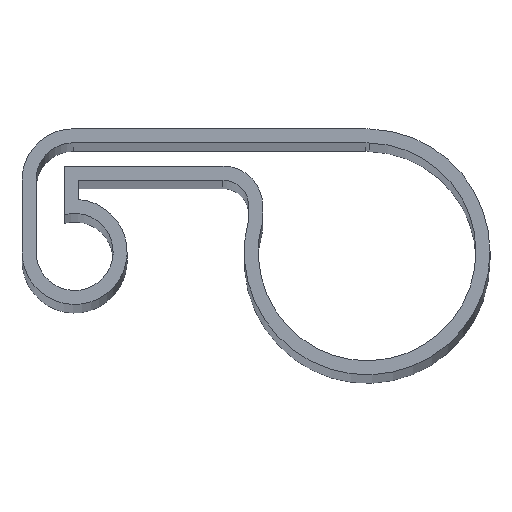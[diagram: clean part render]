
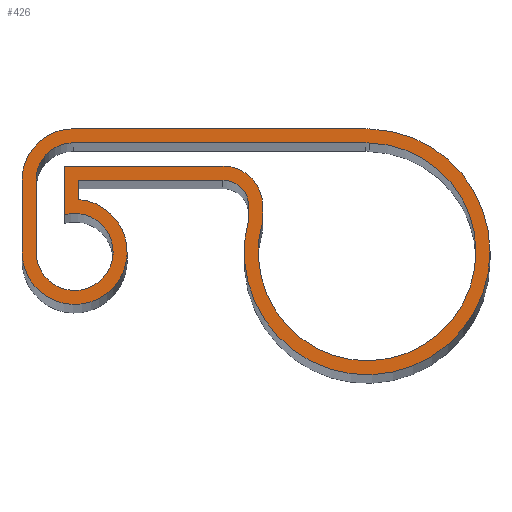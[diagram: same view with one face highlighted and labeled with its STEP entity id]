
A CAD part, top view. The second image highlights one B-rep face of the part: STEP entity #426.
In plain terms, the highlighted planar face has unit normal (0, 0, 1).
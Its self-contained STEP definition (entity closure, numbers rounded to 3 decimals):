
#16=FACE_BOUND('',#92,.T.);
#17=CIRCLE('',#432,2.2);
#19=CIRCLE('',#436,2.128);
#21=CIRCLE('',#440,1.2);
#23=CIRCLE('',#443,6.211);
#25=CIRCLE('',#447,2.264);
#28=CIRCLE('',#451,1.464);
#30=CIRCLE('',#456,3.);
#32=CIRCLE('',#460,2.928);
#34=CIRCLE('',#464,2.);
#36=CIRCLE('',#467,7.011);
#68=FACE_OUTER_BOUND('',#91,.T.);
#91=EDGE_LOOP('',(#373,#374,#375,#376,#377,#378,#379,#380,#381,#382));
#92=EDGE_LOOP('',(#383,#384,#385,#386,#387,#388,#389,#390,#391,#392));
#93=LINE('',#601,#133);
#97=LINE('',#609,#137);
#101=LINE('',#621,#141);
#105=LINE('',#633,#145);
#110=LINE('',#651,#150);
#116=LINE('',#671,#156);
#119=LINE('',#677,#159);
#123=LINE('',#689,#163);
#127=LINE('',#701,#167);
#132=LINE('',#717,#172);
#133=VECTOR('',#475,9.031);
#137=VECTOR('',#481,2.773);
#141=VECTOR('',#493,4.099);
#145=VECTOR('',#505,16.698);
#150=VECTOR('',#524,0.895);
#156=VECTOR('',#544,8.231);
#159=VECTOR('',#549,1.108);
#163=VECTOR('',#561,4.099);
#167=VECTOR('',#573,16.698);
#172=VECTOR('',#592,0.784);
#173=VERTEX_POINT('',#599);
#174=VERTEX_POINT('',#600);
#177=VERTEX_POINT('',#608);
#179=VERTEX_POINT('',#614);
#181=VERTEX_POINT('',#620);
#183=VERTEX_POINT('',#626);
#185=VERTEX_POINT('',#632);
#187=VERTEX_POINT('',#638);
#189=VERTEX_POINT('',#644);
#191=VERTEX_POINT('',#650);
#195=VERTEX_POINT('',#662);
#196=VERTEX_POINT('',#664);
#198=VERTEX_POINT('',#670);
#200=VERTEX_POINT('',#676);
#202=VERTEX_POINT('',#682);
#204=VERTEX_POINT('',#688);
#206=VERTEX_POINT('',#694);
#208=VERTEX_POINT('',#700);
#210=VERTEX_POINT('',#706);
#212=VERTEX_POINT('',#712);
#213=EDGE_CURVE('',#173,#174,#93,.T.);
#217=EDGE_CURVE('',#174,#177,#97,.T.);
#220=EDGE_CURVE('',#177,#179,#17,.T.);
#223=EDGE_CURVE('',#179,#181,#101,.T.);
#226=EDGE_CURVE('',#181,#183,#19,.T.);
#229=EDGE_CURVE('',#183,#185,#105,.T.);
#232=EDGE_CURVE('',#185,#187,#21,.T.);
#235=EDGE_CURVE('',#187,#189,#23,.T.);
#238=EDGE_CURVE('',#189,#191,#110,.T.);
#241=EDGE_CURVE('',#191,#173,#25,.T.);
#245=EDGE_CURVE('',#196,#195,#28,.T.);
#248=EDGE_CURVE('',#198,#196,#116,.T.);
#251=EDGE_CURVE('',#200,#198,#119,.T.);
#254=EDGE_CURVE('',#202,#200,#30,.T.);
#257=EDGE_CURVE('',#204,#202,#123,.T.);
#260=EDGE_CURVE('',#206,#204,#32,.T.);
#263=EDGE_CURVE('',#208,#206,#127,.T.);
#266=EDGE_CURVE('',#210,#208,#34,.T.);
#269=EDGE_CURVE('',#212,#210,#36,.T.);
#272=EDGE_CURVE('',#195,#212,#132,.T.);
#373=ORIENTED_EDGE('',*,*,#272,.T.);
#374=ORIENTED_EDGE('',*,*,#269,.T.);
#375=ORIENTED_EDGE('',*,*,#266,.T.);
#376=ORIENTED_EDGE('',*,*,#263,.T.);
#377=ORIENTED_EDGE('',*,*,#260,.T.);
#378=ORIENTED_EDGE('',*,*,#257,.T.);
#379=ORIENTED_EDGE('',*,*,#254,.T.);
#380=ORIENTED_EDGE('',*,*,#251,.T.);
#381=ORIENTED_EDGE('',*,*,#248,.T.);
#382=ORIENTED_EDGE('',*,*,#245,.T.);
#383=ORIENTED_EDGE('',*,*,#213,.T.);
#384=ORIENTED_EDGE('',*,*,#217,.T.);
#385=ORIENTED_EDGE('',*,*,#220,.T.);
#386=ORIENTED_EDGE('',*,*,#223,.T.);
#387=ORIENTED_EDGE('',*,*,#226,.T.);
#388=ORIENTED_EDGE('',*,*,#229,.T.);
#389=ORIENTED_EDGE('',*,*,#232,.T.);
#390=ORIENTED_EDGE('',*,*,#235,.T.);
#391=ORIENTED_EDGE('',*,*,#238,.T.);
#392=ORIENTED_EDGE('',*,*,#241,.T.);
#404=PLANE('',#470);
#426=ADVANCED_FACE('',(#68,#16),#404,.T.);
#432=AXIS2_PLACEMENT_3D('',#615,#486,#487);
#436=AXIS2_PLACEMENT_3D('',#627,#498,#499);
#440=AXIS2_PLACEMENT_3D('',#639,#510,#511);
#443=AXIS2_PLACEMENT_3D('',#645,#517,#518);
#447=AXIS2_PLACEMENT_3D('',#656,#529,#530);
#451=AXIS2_PLACEMENT_3D('',#665,#538,#539);
#456=AXIS2_PLACEMENT_3D('',#683,#555,#556);
#460=AXIS2_PLACEMENT_3D('',#695,#567,#568);
#464=AXIS2_PLACEMENT_3D('',#707,#579,#580);
#467=AXIS2_PLACEMENT_3D('',#713,#586,#587);
#470=AXIS2_PLACEMENT_3D('',#719,#595,#596);
#475=DIRECTION('',(-1.,0.,0.));
#481=DIRECTION('',(0.,-1.,0.));
#486=DIRECTION('center_axis',(0.,0.,-1.));
#487=DIRECTION('ref_axis',(-1.,0.,0.));
#493=DIRECTION('',(0.,1.,0.));
#498=DIRECTION('center_axis',(0.,0.,-1.));
#499=DIRECTION('ref_axis',(0.,1.,0.));
#505=DIRECTION('',(1.,0.,0.));
#510=DIRECTION('center_axis',(0.,0.,-1.));
#511=DIRECTION('ref_axis',(0.17,0.985,0.));
#517=DIRECTION('center_axis',(0.,0.,-1.));
#518=DIRECTION('ref_axis',(-0.96,0.28,0.));
#524=DIRECTION('',(0.,1.,0.));
#529=DIRECTION('center_axis',(0.,0.,1.));
#530=DIRECTION('ref_axis',(-1.,0.,0.));
#538=DIRECTION('center_axis',(0.,0.,-1.));
#539=DIRECTION('ref_axis',(1.,0.,0.));
#544=DIRECTION('',(1.,0.,0.));
#549=DIRECTION('',(0.,1.,0.));
#555=DIRECTION('center_axis',(0.,0.,1.));
#556=DIRECTION('ref_axis',(1.,0.,0.));
#561=DIRECTION('',(0.,-1.,0.));
#567=DIRECTION('center_axis',(0.,0.,1.));
#568=DIRECTION('ref_axis',(0.,-1.,0.));
#573=DIRECTION('',(-1.,0.,0.));
#579=DIRECTION('center_axis',(0.,0.,1.));
#580=DIRECTION('ref_axis',(-0.138,-0.99,0.));
#586=DIRECTION('center_axis',(0.,0.,1.));
#587=DIRECTION('ref_axis',(0.965,-0.264,0.));
#592=DIRECTION('',(0.,-1.,0.));
#595=DIRECTION('center_axis',(0.,0.,1.));
#596=DIRECTION('ref_axis',(1.,0.,0.));
#599=CARTESIAN_POINT('',(11.706,0.099,280.4));
#600=CARTESIAN_POINT('',(2.676,0.099,280.4));
#601=CARTESIAN_POINT('',(7.433,0.099,280.4));
#608=CARTESIAN_POINT('',(2.676,-2.674,280.4));
#609=CARTESIAN_POINT('',(2.676,-2.71,280.4));
#614=CARTESIAN_POINT('',(1.04,-4.8,280.4));
#615=CARTESIAN_POINT('Origin',(3.24,-4.8,280.4));
#620=CARTESIAN_POINT('',(1.04,-0.701,280.4));
#621=CARTESIAN_POINT('',(1.04,-1.724,280.4));
#626=CARTESIAN_POINT('',(3.168,1.427,280.4));
#627=CARTESIAN_POINT('Origin',(3.168,-0.701,280.4));
#632=CARTESIAN_POINT('',(19.866,1.427,280.4));
#633=CARTESIAN_POINT('',(16.028,1.427,280.4));
#638=CARTESIAN_POINT('',(20.071,1.41,280.4));
#639=CARTESIAN_POINT('Origin',(19.866,0.227,280.4));
#644=CARTESIAN_POINT('',(13.97,-3.06,280.4));
#645=CARTESIAN_POINT('Origin',(19.933,-4.8,280.4));
#650=CARTESIAN_POINT('',(13.97,-2.165,280.4));
#651=CARTESIAN_POINT('',(13.97,-2.456,280.4));
#656=CARTESIAN_POINT('Origin',(11.706,-2.165,280.4));
#662=CARTESIAN_POINT('',(13.17,-2.165,280.4));
#664=CARTESIAN_POINT('',(11.706,-0.701,280.4));
#665=CARTESIAN_POINT('Origin',(11.706,-2.165,280.4));
#670=CARTESIAN_POINT('',(3.476,-0.701,280.4));
#671=CARTESIAN_POINT('',(5.516,-0.701,280.4));
#676=CARTESIAN_POINT('',(3.476,-1.809,280.4));
#677=CARTESIAN_POINT('',(3.476,-0.701,280.4));
#682=CARTESIAN_POINT('',(0.24,-4.8,280.4));
#683=CARTESIAN_POINT('Origin',(3.24,-4.8,280.4));
#688=CARTESIAN_POINT('',(0.24,-0.701,280.4));
#689=CARTESIAN_POINT('',(0.24,-4.8,280.4));
#694=CARTESIAN_POINT('',(3.168,2.227,280.4));
#695=CARTESIAN_POINT('Origin',(3.168,-0.701,280.4));
#700=CARTESIAN_POINT('',(19.866,2.227,280.4));
#701=CARTESIAN_POINT('',(3.168,2.227,280.4));
#706=CARTESIAN_POINT('',(20.142,2.208,280.4));
#707=CARTESIAN_POINT('Origin',(19.866,0.227,280.4));
#712=CARTESIAN_POINT('',(13.17,-2.949,280.4));
#713=CARTESIAN_POINT('Origin',(19.933,-4.8,280.4));
#717=CARTESIAN_POINT('',(13.17,-2.949,280.4));
#719=CARTESIAN_POINT('Origin',(12.189,-2.747,280.4));
